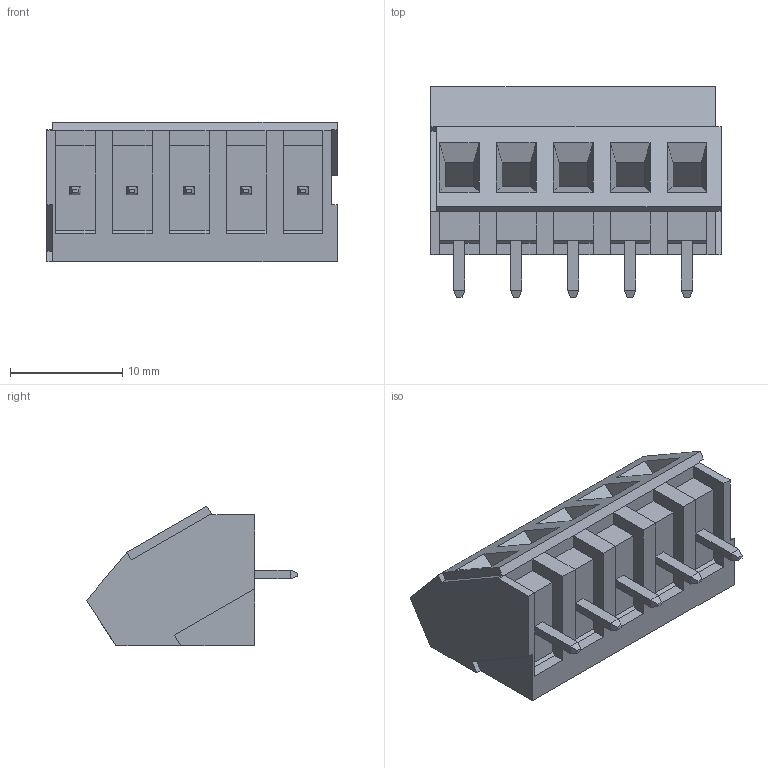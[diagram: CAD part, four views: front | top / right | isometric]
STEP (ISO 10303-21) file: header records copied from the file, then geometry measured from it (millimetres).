
FILE_DESCRIPTION((''),'2;1');
FILE_NAME('398800405','2015-02-27T',('me'),(''),'PRO/ENGINEER BY PARAMETRIC TECHNOLOGY CORPORATION, 2011490','PRO/ENGINEER BY PARAMETRIC TECHNOLOGY CORPORATION, 2011490','');
FILE_SCHEMA(('CONFIG_CONTROL_DESIGN'));
Length unit declared in the file: inch
Products named in the file (1): 398800405
Bounding box: 25.91 x 18.8 x 12.45 mm (x, y, z)
Volume: 2968.3 mm3; surface area: 2244.1 mm2
Topology: 1 solids, 1 shells, 166 faces, 410 edges, 266 vertices
Faces by surface type: plane 156, cylinder 10
Entity records: 4792 total; most frequent: CARTESIAN_POINT 823, ORIENTED_EDGE 790, DIRECTION 774, EDGE_CURVE 395, VECTOR 380, LINE 380, VERTEX_POINT 246, AXIS2_PLACEMENT_3D 197
